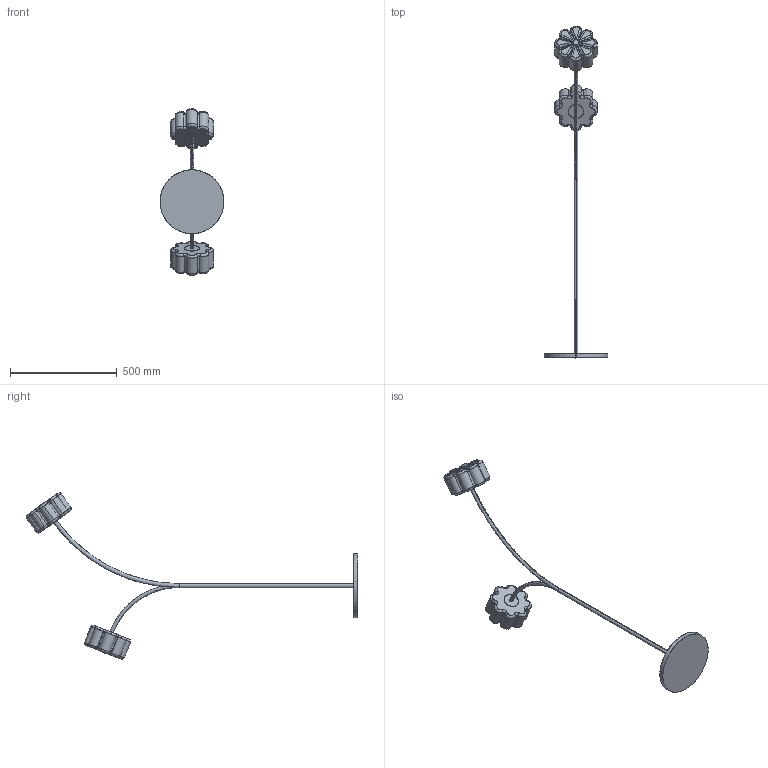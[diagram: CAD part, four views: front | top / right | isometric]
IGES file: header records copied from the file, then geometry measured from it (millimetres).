
Start section: SolidWorks IGES file using analytic representation for surfaces
Global section: file name: C:\Users\Agustin\Desktop\ENERO 2025\2D-3D\2D-3D FLOW_P1339\FLOW_P1339.IGS; native system: SolidWorks 2018; preprocessor: SolidWorks 2018; author: Agustin; date: 250117.135038; units: millimetre
Bounding box: 300 x 1556.06 x 781.4 mm (x, y, z)
Surface area: 518375.7 mm2 (no closed solid volume)
Topology: 0 solids, 0 shells, 318 faces, 4125 edges, 4102 vertices
Faces by surface type: bspline 196, revolution 122
